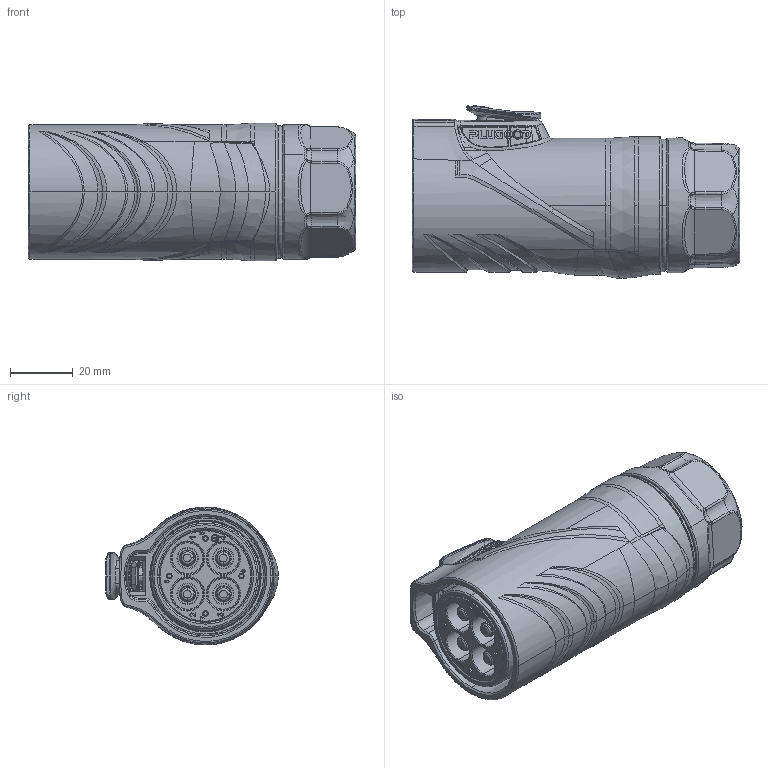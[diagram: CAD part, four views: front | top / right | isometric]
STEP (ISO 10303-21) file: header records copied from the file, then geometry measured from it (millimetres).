
FILE_DESCRIPTION (( 'STEP AP203' ), '1' );
FILE_NAME ('PLG36 4郋眻芛脣芛.STEP', '2025-09-10T08:24:17', ( '' ), ( '' ), 'SwSTEP 2.0', 'SolidWorks 2024', '' );
FILE_SCHEMA (( 'CONFIG_CONTROL_DESIGN' ));
Products named in the file (1): PLG36 4芯直头插头
Bounding box: 104.44 x 55.09 x 44 mm (x, y, z)
Volume: 156371.4 mm3; surface area: 63517.6 mm2
Topology: 15 solids, 16 shells, 3320 faces, 8803 edges, 5599 vertices
Faces by surface type: cylinder 864, bspline 858, plane 727, torus 581, cone 224, sphere 66
Entity records: 163893 total; most frequent: CARTESIAN_POINT 89159, ORIENTED_EDGE 17478, DIRECTION 13264, EDGE_CURVE 8739, VERTEX_POINT 5592, AXIS2_PLACEMENT_3D 5327, EDGE_LOOP 3525, ADVANCED_FACE 3320
